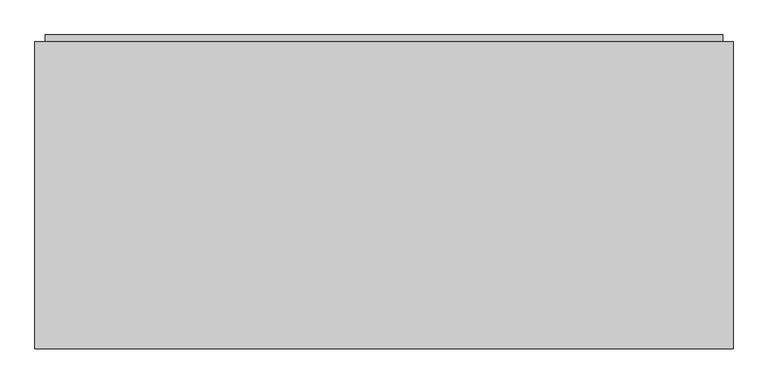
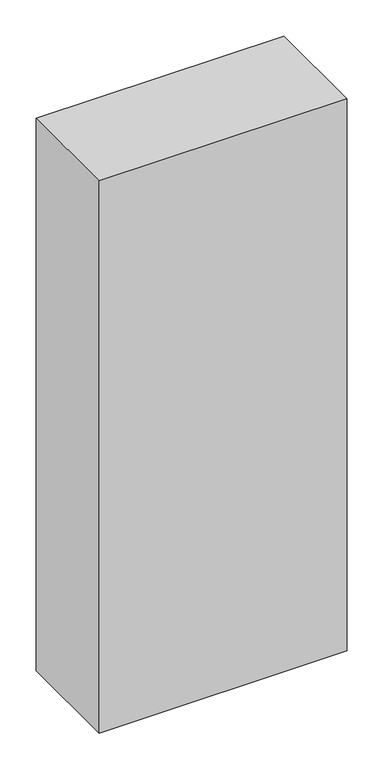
"""IFC4 building model written with IfcOpenShell, lengths in millimetres: proxy geometry."""

from ifc_helpers import new_model, si_unit, origin, place, context, project, spatial, faceted_brep, source, transform, mapped, element, save


def generic_models_c5d57471(model_context):
    return source(origin(), model_context, "Body", "Brep", [
        faceted_brep([(-20.0, 0.0, 3190.0), (-20.0, 0.0, 0.0), (-1343.8392583, 0.0, 0.0), (-1343.8392583, 0.0, 3190.0), (-20.0, -13.0, 3190.0), (-20.0, -13.0, 0.0), (0.0, -13.0, 0.0), (0.0, -613.0, 0.0), (-1363.8392583, -613.0, 0.0), (-1363.8392583, -13.0, 0.0), (-1343.8392583, -13.0, 0.0), (-1343.8392583, -13.0, 3190.0), (-1363.8392583, -613.0, 3210.0), (0.0, -613.0, 3210.0), (-1363.8392583, -13.0, 3210.0), (0.0, -13.0, 3210.0)], [[[0, 1, 2, 3]], [[1, 0, 4, 5]], [[2, 1, 5, 6, 7, 8, 9, 10]], [[3, 2, 10, 11]], [[0, 3, 11, 4]], [[12, 8, 7, 13]], [[14, 15, 6, 5, 4, 11, 10, 9]], [[8, 12, 14, 9]], [[13, 7, 6, 15]], [[12, 13, 15, 14]]]),
    ])


if __name__ == "__main__":
    model = new_model("IFC4")
    model_context = context("Model", 3, world=origin())
    ifc_project = project(units=[si_unit("LENGTHUNIT", "METRE", prefix="MILLI")], contexts=[model_context])
    site = spatial("IfcSite", under=ifc_project)
    building = spatial("IfcBuilding", under=site)
    placement = place(None, origin())
    generic_models_shape = generic_models_c5d57471(model_context)
    element("IfcBuildingElementProxy", 1, Name="Generic Models", at=placement, inside=building, context=model_context, shape_type="MappedRepresentation", body=[
        mapped(generic_models_shape, transform((0.0, 0.0, 0.0), x_axis=(1.0, 0.0, 0.0), y_axis=(0.0, 1.0, 0.0), z_axis=(0.0, 0.0, 1.0))),
    ])
    save(model, "model.ifc")
